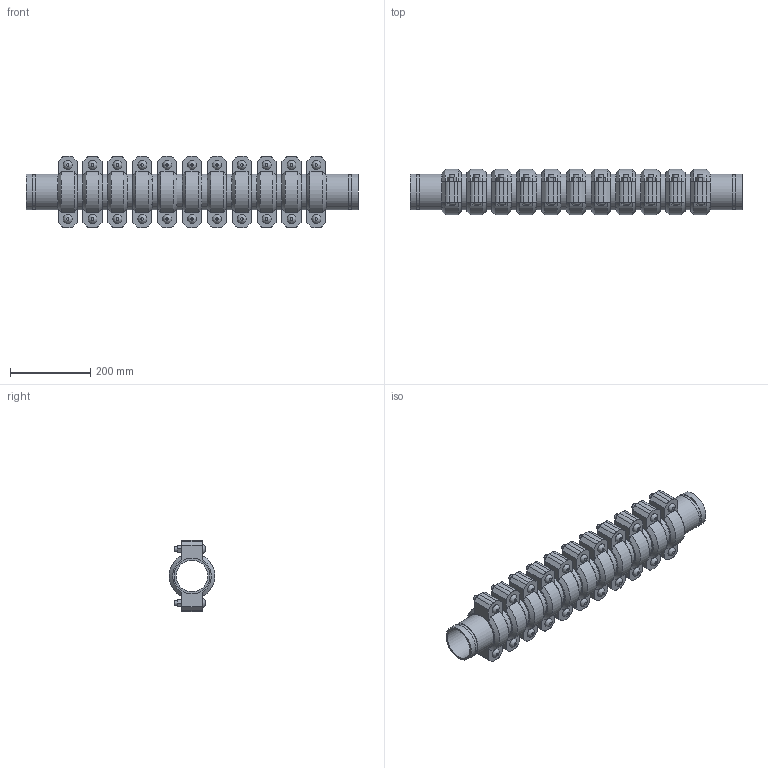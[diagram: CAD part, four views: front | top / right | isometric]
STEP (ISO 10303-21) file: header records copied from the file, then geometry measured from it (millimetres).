
FILE_DESCRIPTION(/* description */ ('VIC SS EXPANSION JOINT 11 COUPLINGS EXPANDED STYLE 155P (OGS) (POTABLE WATER) ','CAx-IF Rec.Pracs.---Representation and Presentation of Product Manufacturing Information (PMI)---4.0---2014-10-13'),/* implementation_level */ '2;1');
FILE_NAME(/* name */ 'C:\Users\kkamble\AppData\Roaming\Autodesk\ApplicationPlugins\Victaulic.Temp\A494\Victaulic_SS_Expansion Joint_Expanded_11 Couplings_Style 155P (OGS)-Potable Water_11 Coup_Expd_3 (80).stp',/* time_stamp */ '2021-07-16T16:46:15+05:00',/* author */ ('kkamble'),/* organization */ ('Victaulic'),/* preprocessor_version */ 'ST-DEVELOPER v17.2',/* originating_system */ 'Autodesk Inventor 2019',/* authorisation */ '');
FILE_SCHEMA (('AP242_MANAGED_MODEL_BASED_3D_ENGINEERING_MIM_LF { 1 0 10303 442 1 1 4 }'));
Length unit declared in the file: inch
Products named in the file (4): 155P-03.0; Nipple-03.0; Nipple-03.0_1; 075-03.0
Assembly tree (23 placements, depth 2):
  155P-03.0
    Nipple-03.0  x2
    Nipple-03.0_1  x10
    075-03.0  x11
Bounding box: 827.28 x 113.88 x 177.8 mm (x, y, z)
Volume: 4588456.6 mm3; surface area: 1153530.8 mm2
Topology: 23 solids, 45 shells, 771 faces, 1823 edges, 1278 vertices
Faces by surface type: plane 468, cylinder 237, cone 44, bspline 22
Full cylindrical faces by diameter (mm): 12.7 x44, 14.605 x22, 79.35 x12, 82.55 x11, 84.938 x24, 88.9 x58
Entity records: 2888 total; most frequent: CARTESIAN_POINT 507, DIRECTION 489, ORIENTED_EDGE 386, AXIS2_PLACEMENT_3D 198, EDGE_CURVE 193, VERTEX_POINT 138, EDGE_LOOP 107, LINE 93
